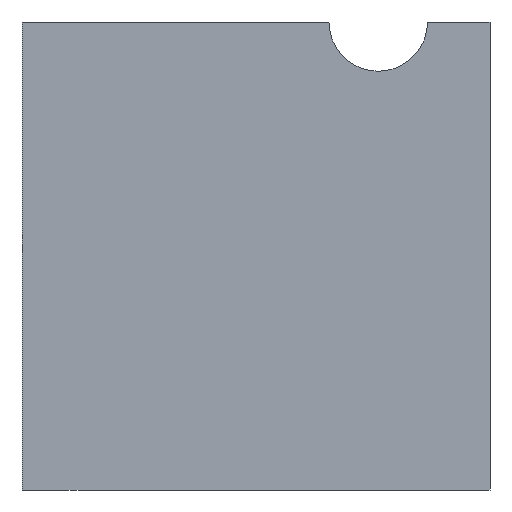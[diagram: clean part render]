
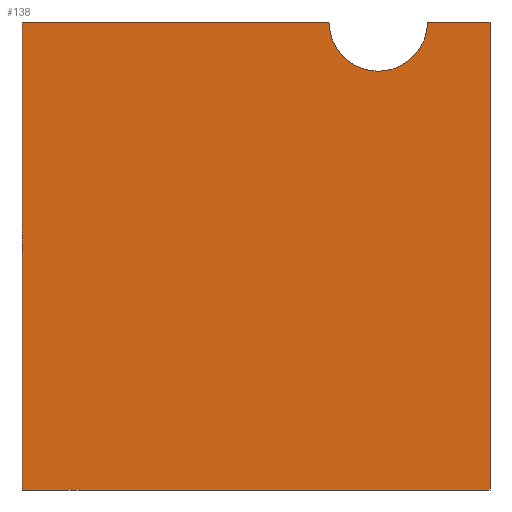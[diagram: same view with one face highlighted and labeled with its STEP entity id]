
A CAD part, front view. The second image highlights one B-rep face of the part: STEP entity #138.
In plain terms, the highlighted planar face has unit normal (0, -1, 0).
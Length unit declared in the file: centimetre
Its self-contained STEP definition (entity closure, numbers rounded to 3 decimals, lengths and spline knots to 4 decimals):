
#30 = DIRECTION ( 'NONE',  ( 0., 1., 0. ) ) ;
#40 = EDGE_CURVE ( 'NONE', #592, #83, #534, .T. ) ;
#62 = CIRCLE ( 'NONE', #316, 105.2834 ) ;
#70 = EDGE_CURVE ( 'NONE', #83, #507, #178, .T. ) ;
#83 = VERTEX_POINT ( 'NONE', #381 ) ;
#84 = DIRECTION ( 'NONE',  ( 0., 0., 1. ) ) ;
#85 = ORIENTED_EDGE ( 'NONE', *, *, #70, .T. ) ;
#89 = VERTEX_POINT ( 'NONE', #106 ) ;
#106 = CARTESIAN_POINT ( 'NONE',  ( 655.9445, 0., 1000. ) ) ;
#129 = DIRECTION ( 'NONE',  ( 0., 0., -1. ) ) ;
#132 = VECTOR ( 'NONE', #182, 100. ) ;
#138 = ADVANCED_FACE ( 'NONE', ( #266 ), #281, .F. ) ;
#139 = LINE ( 'NONE', #284, #132 ) ;
#141 = DIRECTION ( 'NONE',  ( 0., 0., -1. ) ) ;
#143 = ORIENTED_EDGE ( 'NONE', *, *, #513, .F. ) ;
#155 = LINE ( 'NONE', #668, #527 ) ;
#170 = DIRECTION ( 'NONE',  ( 1., 0., 0. ) ) ;
#178 = LINE ( 'NONE', #224, #427 ) ;
#182 = DIRECTION ( 'NONE',  ( 1., 0., 0. ) ) ;
#205 = VERTEX_POINT ( 'NONE', #586 ) ;
#224 = CARTESIAN_POINT ( 'NONE',  ( 0., 0., 0. ) ) ;
#266 = FACE_OUTER_BOUND ( 'NONE', #517, .T. ) ;
#281 = PLANE ( 'NONE',  #292 ) ;
#284 = CARTESIAN_POINT ( 'NONE',  ( 0., 0., 1000. ) ) ;
#286 = EDGE_CURVE ( 'NONE', #205, #558, #139, .T. ) ;
#288 = CARTESIAN_POINT ( 'NONE',  ( 0., 0., 1000. ) ) ;
#292 = AXIS2_PLACEMENT_3D ( 'NONE', #477, #485, #636 ) ;
#303 = CARTESIAN_POINT ( 'NONE',  ( 761.2278, 0., 1000. ) ) ;
#316 = AXIS2_PLACEMENT_3D ( 'NONE', #303, #30, #84 ) ;
#318 = ORIENTED_EDGE ( 'NONE', *, *, #350, .T. ) ;
#334 = ORIENTED_EDGE ( 'NONE', *, *, #40, .T. ) ;
#350 = EDGE_CURVE ( 'NONE', #205, #89, #62, .T. ) ;
#367 = DIRECTION ( 'NONE',  ( 1., 0., 0. ) ) ;
#381 = CARTESIAN_POINT ( 'NONE',  ( 0., 0., 0. ) ) ;
#408 = ORIENTED_EDGE ( 'NONE', *, *, #569, .F. ) ;
#427 = VECTOR ( 'NONE', #170, 100. ) ;
#436 = CARTESIAN_POINT ( 'NONE',  ( 0., 0., 1000. ) ) ;
#473 = VECTOR ( 'NONE', #141, 100. ) ;
#474 = ORIENTED_EDGE ( 'NONE', *, *, #286, .F. ) ;
#477 = CARTESIAN_POINT ( 'NONE',  ( 0., 0., 1000. ) ) ;
#485 = DIRECTION ( 'NONE',  ( 0., 1., 0. ) ) ;
#507 = VERTEX_POINT ( 'NONE', #676 ) ;
#513 = EDGE_CURVE ( 'NONE', #592, #89, #155, .T. ) ;
#517 = EDGE_LOOP ( 'NONE', ( #474, #318, #143, #334, #85, #408 ) ) ;
#527 = VECTOR ( 'NONE', #367, 100. ) ;
#534 = LINE ( 'NONE', #436, #632 ) ;
#553 = LINE ( 'NONE', #565, #473 ) ;
#558 = VERTEX_POINT ( 'NONE', #665 ) ;
#565 = CARTESIAN_POINT ( 'NONE',  ( 1000., 0., 1000. ) ) ;
#569 = EDGE_CURVE ( 'NONE', #558, #507, #553, .T. ) ;
#586 = CARTESIAN_POINT ( 'NONE',  ( 866.5112, 0., 1000. ) ) ;
#592 = VERTEX_POINT ( 'NONE', #288 ) ;
#632 = VECTOR ( 'NONE', #129, 100. ) ;
#636 = DIRECTION ( 'NONE',  ( 0., 0., 1. ) ) ;
#665 = CARTESIAN_POINT ( 'NONE',  ( 1000., 0., 1000. ) ) ;
#668 = CARTESIAN_POINT ( 'NONE',  ( 0., 0., 1000. ) ) ;
#676 = CARTESIAN_POINT ( 'NONE',  ( 1000., 0., 0. ) ) ;
